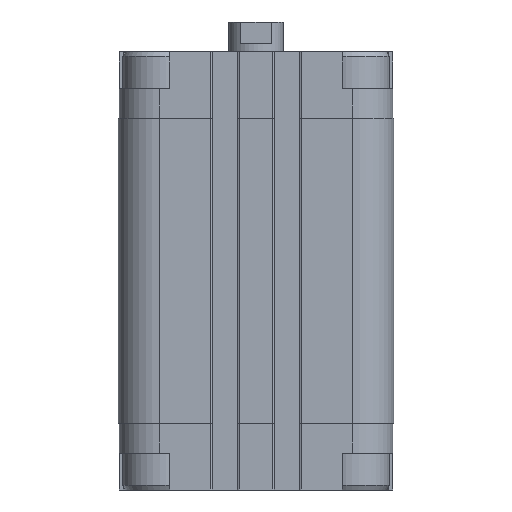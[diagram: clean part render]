
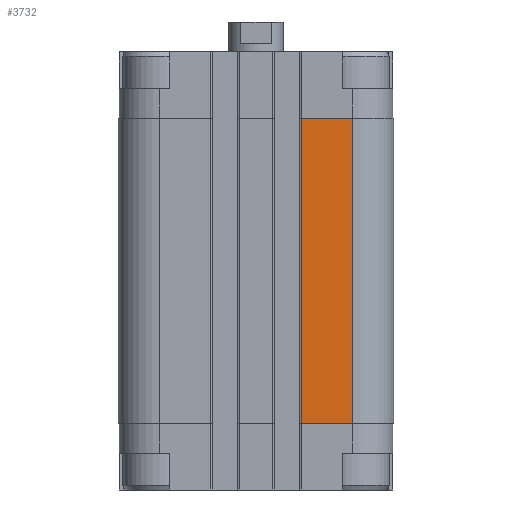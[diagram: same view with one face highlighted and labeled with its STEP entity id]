
A CAD part, front view. The second image highlights one B-rep face of the part: STEP entity #3732.
In plain terms, the highlighted planar face has unit normal (0, -1, 0).
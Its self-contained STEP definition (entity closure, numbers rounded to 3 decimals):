
#144 = CARTESIAN_POINT ( 'NONE',  ( 9.85, -30., -14.5 ) ) ;
#211 = CARTESIAN_POINT ( 'NONE',  ( 21., -30., -81. ) ) ;
#1705 = VERTEX_POINT ( 'NONE', #20538 ) ;
#1801 = AXIS2_PLACEMENT_3D ( 'NONE', #19701, #4112, #11169 ) ;
#2623 = DIRECTION ( 'NONE',  ( 1., 0., 0. ) ) ;
#3627 = ORIENTED_EDGE ( 'NONE', *, *, #13479, .T. ) ;
#3732 = ADVANCED_FACE ( 'NONE', ( #12950 ), #6014, .T. ) ;
#4112 = DIRECTION ( 'NONE',  ( 0., -1., 0. ) ) ;
#4698 = DIRECTION ( 'NONE',  ( 0., 0., 1. ) ) ;
#5873 = ORIENTED_EDGE ( 'NONE', *, *, #13891, .T. ) ;
#5990 = LINE ( 'NONE', #19683, #17778 ) ;
#6014 = PLANE ( 'NONE',  #1801 ) ;
#6051 = LINE ( 'NONE', #16470, #6083 ) ;
#6083 = VECTOR ( 'NONE', #4698, 1000. ) ;
#6139 = LINE ( 'NONE', #12641, #13763 ) ;
#7497 = DIRECTION ( 'NONE',  ( 0., 0., 1. ) ) ;
#7590 = ORIENTED_EDGE ( 'NONE', *, *, #21924, .F. ) ;
#9860 = DIRECTION ( 'NONE',  ( 1., 0., 0. ) ) ;
#10832 = VERTEX_POINT ( 'NONE', #15640 ) ;
#10999 = EDGE_CURVE ( 'NONE', #18248, #1705, #5990, .T. ) ;
#11169 = DIRECTION ( 'NONE',  ( -1., 0., 0. ) ) ;
#12641 = CARTESIAN_POINT ( 'NONE',  ( 9.85, -30., -81. ) ) ;
#12950 = FACE_OUTER_BOUND ( 'NONE', #17806, .T. ) ;
#13479 = EDGE_CURVE ( 'NONE', #10832, #20231, #17882, .T. ) ;
#13763 = VECTOR ( 'NONE', #7497, 1000. ) ;
#13891 = EDGE_CURVE ( 'NONE', #20231, #1705, #6051, .T. ) ;
#14734 = ORIENTED_EDGE ( 'NONE', *, *, #10999, .F. ) ;
#15640 = CARTESIAN_POINT ( 'NONE',  ( 9.85, -30., -81. ) ) ;
#16470 = CARTESIAN_POINT ( 'NONE',  ( 21., -30., -81. ) ) ;
#17778 = VECTOR ( 'NONE', #2623, 1000. ) ;
#17806 = EDGE_LOOP ( 'NONE', ( #14734, #7590, #3627, #5873 ) ) ;
#17882 = LINE ( 'NONE', #21368, #21847 ) ;
#18248 = VERTEX_POINT ( 'NONE', #144 ) ;
#19683 = CARTESIAN_POINT ( 'NONE',  ( 9.85, -30., -14.5 ) ) ;
#19701 = CARTESIAN_POINT ( 'NONE',  ( 9.85, -30., -81. ) ) ;
#20231 = VERTEX_POINT ( 'NONE', #211 ) ;
#20538 = CARTESIAN_POINT ( 'NONE',  ( 21., -30., -14.5 ) ) ;
#21368 = CARTESIAN_POINT ( 'NONE',  ( 9.85, -30., -81. ) ) ;
#21847 = VECTOR ( 'NONE', #9860, 1000. ) ;
#21924 = EDGE_CURVE ( 'NONE', #10832, #18248, #6139, .T. ) ;
